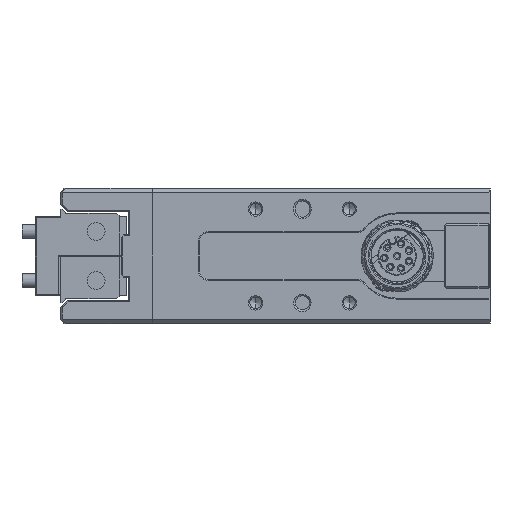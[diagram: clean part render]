
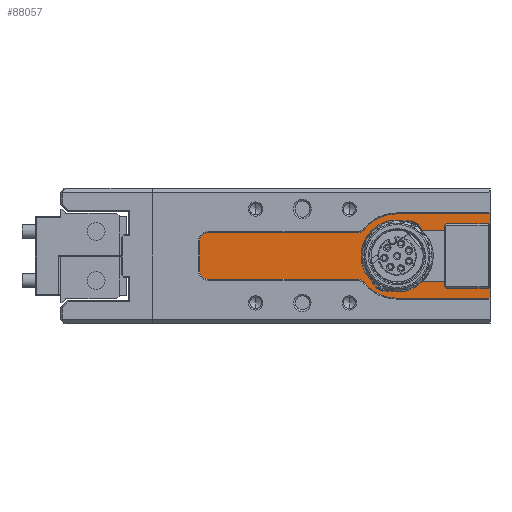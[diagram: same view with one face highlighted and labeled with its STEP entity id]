
A CAD part, left-side view. The second image highlights one B-rep face of the part: STEP entity #88057.
In plain terms, the highlighted planar face has unit normal (-1, 0, 0).
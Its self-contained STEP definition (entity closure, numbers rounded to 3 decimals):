
#2155 = EDGE_CURVE ( 'NONE', #17625, #79349, #61177, .T. ) ;
#2266 = ORIENTED_EDGE ( 'NONE', *, *, #50793, .T. ) ;
#2354 = ORIENTED_EDGE ( 'NONE', *, *, #10010, .T. ) ;
#2522 = CARTESIAN_POINT ( 'NONE',  ( -50.87, -21.523, 9. ) ) ;
#4268 = CARTESIAN_POINT ( 'NONE',  ( -50.87, 38.477, 3. ) ) ;
#4481 = DIRECTION ( 'NONE',  ( 0., 0., 1. ) ) ;
#6457 = DIRECTION ( 'NONE',  ( 0., 0., -1. ) ) ;
#7012 = VERTEX_POINT ( 'NONE', #45951 ) ;
#7230 = CARTESIAN_POINT ( 'NONE',  ( -50.87, -1.723, -9. ) ) ;
#7624 = VERTEX_POINT ( 'NONE', #2522 ) ;
#7814 = DIRECTION ( 'NONE',  ( 0., 1., 0. ) ) ;
#8308 = CARTESIAN_POINT ( 'NONE',  ( -50.87, -21.523, 5.4 ) ) ;
#8352 = CIRCLE ( 'NONE', #92830, 9. ) ;
#8661 = EDGE_CURVE ( 'NONE', #23329, #87450, #82084, .T. ) ;
#9563 = DIRECTION ( 'NONE',  ( 0., 0., 1. ) ) ;
#10010 = EDGE_CURVE ( 'NONE', #87450, #39166, #63283, .T. ) ;
#13167 = DIRECTION ( 'NONE',  ( 0., 0., -1. ) ) ;
#13680 = LINE ( 'NONE', #64772, #38796 ) ;
#16101 = ORIENTED_EDGE ( 'NONE', *, *, #30705, .T. ) ;
#17016 = DIRECTION ( 'NONE',  ( 0., 0., -1. ) ) ;
#17625 = VERTEX_POINT ( 'NONE', #59929 ) ;
#19085 = DIRECTION ( 'NONE',  ( 0., -1., 0. ) ) ;
#19540 = CARTESIAN_POINT ( 'NONE',  ( -50.87, 40.477, 3. ) ) ;
#19624 = DIRECTION ( 'NONE',  ( 0., 0., 1. ) ) ;
#20154 = AXIS2_PLACEMENT_3D ( 'NONE', #4268, #33031, #76995 ) ;
#20257 = PLANE ( 'NONE',  #52629 ) ;
#20746 = EDGE_CURVE ( 'NONE', #39856, #79349, #54997, .T. ) ;
#21563 = VECTOR ( 'NONE', #35539, 1000. ) ;
#22183 = LINE ( 'NONE', #64783, #33970 ) ;
#23329 = VERTEX_POINT ( 'NONE', #53255 ) ;
#25307 = EDGE_CURVE ( 'NONE', #39166, #61639, #67172, .T. ) ;
#26226 = VECTOR ( 'NONE', #19624, 1000. ) ;
#26705 = EDGE_CURVE ( 'NONE', #30707, #53278, #52452, .T. ) ;
#27347 = FACE_OUTER_BOUND ( 'NONE', #34750, .T. ) ;
#27549 = VERTEX_POINT ( 'NONE', #8308 ) ;
#28628 = VECTOR ( 'NONE', #4481, 1000. ) ;
#30705 = EDGE_CURVE ( 'NONE', #7624, #7012, #61180, .T. ) ;
#30707 = VERTEX_POINT ( 'NONE', #62576 ) ;
#30860 = DIRECTION ( 'NONE',  ( 0., 0., -1. ) ) ;
#33031 = DIRECTION ( 'NONE',  ( -1., 0., 0. ) ) ;
#33157 = AXIS2_PLACEMENT_3D ( 'NONE', #58495, #35468, #71433 ) ;
#33957 = ORIENTED_EDGE ( 'NONE', *, *, #84146, .F. ) ;
#33970 = VECTOR ( 'NONE', #70952, 1000. ) ;
#34750 = EDGE_LOOP ( 'NONE', ( #74551, #63765, #47635, #93163, #45050, #70514, #33957, #76183, #38985, #16101, #62457, #2266, #88746, #62815, #2354, #57529 ) ) ;
#35220 = DIRECTION ( 'NONE',  ( -1., 0., 0. ) ) ;
#35468 = DIRECTION ( 'NONE',  ( -1., 0., 0. ) ) ;
#35539 = DIRECTION ( 'NONE',  ( 0., 1., 0. ) ) ;
#38796 = VECTOR ( 'NONE', #58138, 1000. ) ;
#38985 = ORIENTED_EDGE ( 'NONE', *, *, #77699, .T. ) ;
#39166 = VERTEX_POINT ( 'NONE', #58476 ) ;
#39856 = VERTEX_POINT ( 'NONE', #48617 ) ;
#41313 = EDGE_CURVE ( 'NONE', #61639, #30707, #22183, .T. ) ;
#41325 = CIRCLE ( 'NONE', #50443, 5.4 ) ;
#42276 = EDGE_CURVE ( 'NONE', #7012, #91303, #8352, .T. ) ;
#42668 = CARTESIAN_POINT ( 'NONE',  ( -50.87, -1.723, 5.4 ) ) ;
#43036 = AXIS2_PLACEMENT_3D ( 'NONE', #53601, #45106, #30860 ) ;
#43390 = CARTESIAN_POINT ( 'NONE',  ( -50.87, -21.523, 0. ) ) ;
#45050 = ORIENTED_EDGE ( 'NONE', *, *, #2155, .T. ) ;
#45106 = DIRECTION ( 'NONE',  ( -1., 0., 0. ) ) ;
#45951 = CARTESIAN_POINT ( 'NONE',  ( -50.87, -1.723, 9. ) ) ;
#46885 = CARTESIAN_POINT ( 'NONE',  ( -50.87, 5.219, -5.727 ) ) ;
#46936 = CARTESIAN_POINT ( 'NONE',  ( -50.87, -1.723, -5.4 ) ) ;
#46974 = DIRECTION ( 'NONE',  ( 0., 1., 0. ) ) ;
#47377 = CARTESIAN_POINT ( 'NONE',  ( -50.87, 6.762, 5. ) ) ;
#47635 = ORIENTED_EDGE ( 'NONE', *, *, #68781, .T. ) ;
#48097 = CARTESIAN_POINT ( 'NONE',  ( -50.87, 38.477, -5. ) ) ;
#48227 = CIRCLE ( 'NONE', #33157, 9. ) ;
#48405 = CARTESIAN_POINT ( 'NONE',  ( -50.87, -1.723, 9. ) ) ;
#48617 = CARTESIAN_POINT ( 'NONE',  ( -50.87, -1.723, -5.4 ) ) ;
#48955 = CARTESIAN_POINT ( 'NONE',  ( -50.87, -1.723, 5.4 ) ) ;
#50443 = AXIS2_PLACEMENT_3D ( 'NONE', #53980, #74798, #9563 ) ;
#50793 = EDGE_CURVE ( 'NONE', #91303, #61231, #55423, .T. ) ;
#50871 = AXIS2_PLACEMENT_3D ( 'NONE', #85365, #77779, #6457 ) ;
#52452 = CIRCLE ( 'NONE', #93177, 2. ) ;
#52629 = AXIS2_PLACEMENT_3D ( 'NONE', #43390, #70847, #93443 ) ;
#52930 = CARTESIAN_POINT ( 'NONE',  ( -50.87, 6.762, -7. ) ) ;
#53255 = CARTESIAN_POINT ( 'NONE',  ( -50.87, 38.477, 5. ) ) ;
#53278 = VERTEX_POINT ( 'NONE', #46885 ) ;
#53601 = CARTESIAN_POINT ( 'NONE',  ( -50.87, 38.477, -3. ) ) ;
#53980 = CARTESIAN_POINT ( 'NONE',  ( -50.87, -1.723, 0. ) ) ;
#54132 = CARTESIAN_POINT ( 'NONE',  ( -50.87, -21.523, 9. ) ) ;
#54997 = LINE ( 'NONE', #46936, #84084 ) ;
#55423 = CIRCLE ( 'NONE', #50871, 2. ) ;
#55458 = VECTOR ( 'NONE', #46974, 1000. ) ;
#57143 = CARTESIAN_POINT ( 'NONE',  ( -50.87, 40.477, 5. ) ) ;
#57437 = DIRECTION ( 'NONE',  ( 0., 0., 1. ) ) ;
#57529 = ORIENTED_EDGE ( 'NONE', *, *, #25307, .T. ) ;
#58138 = DIRECTION ( 'NONE',  ( 0., -1., 0. ) ) ;
#58476 = CARTESIAN_POINT ( 'NONE',  ( -50.87, 40.477, -3. ) ) ;
#58495 = CARTESIAN_POINT ( 'NONE',  ( -50.87, -1.723, 0. ) ) ;
#59929 = CARTESIAN_POINT ( 'NONE',  ( -50.87, -21.523, -9. ) ) ;
#61177 = LINE ( 'NONE', #75357, #28628 ) ;
#61180 = LINE ( 'NONE', #48405, #55458 ) ;
#61210 = LINE ( 'NONE', #54132, #26226 ) ;
#61231 = VERTEX_POINT ( 'NONE', #47377 ) ;
#61639 = VERTEX_POINT ( 'NONE', #48097 ) ;
#62457 = ORIENTED_EDGE ( 'NONE', *, *, #42276, .T. ) ;
#62576 = CARTESIAN_POINT ( 'NONE',  ( -50.87, 6.762, -5. ) ) ;
#62815 = ORIENTED_EDGE ( 'NONE', *, *, #8661, .T. ) ;
#62979 = EDGE_CURVE ( 'NONE', #27549, #74314, #72117, .T. ) ;
#63283 = LINE ( 'NONE', #57143, #74634 ) ;
#63454 = CARTESIAN_POINT ( 'NONE',  ( -50.87, 40.477, 5. ) ) ;
#63765 = ORIENTED_EDGE ( 'NONE', *, *, #26705, .T. ) ;
#64772 = CARTESIAN_POINT ( 'NONE',  ( -50.87, -1.723, -9. ) ) ;
#64783 = CARTESIAN_POINT ( 'NONE',  ( -50.87, 40.477, -5. ) ) ;
#66068 = CARTESIAN_POINT ( 'NONE',  ( -50.87, 5.219, 5.727 ) ) ;
#67098 = CARTESIAN_POINT ( 'NONE',  ( -50.87, -21.523, -5.4 ) ) ;
#67172 = CIRCLE ( 'NONE', #43036, 2. ) ;
#68781 = EDGE_CURVE ( 'NONE', #53278, #76141, #48227, .T. ) ;
#70514 = ORIENTED_EDGE ( 'NONE', *, *, #20746, .F. ) ;
#70847 = DIRECTION ( 'NONE',  ( 1., 0., 0. ) ) ;
#70952 = DIRECTION ( 'NONE',  ( 0., -1., 0. ) ) ;
#71199 = CARTESIAN_POINT ( 'NONE',  ( -50.87, -1.723, 0. ) ) ;
#71433 = DIRECTION ( 'NONE',  ( 0., 0., 1. ) ) ;
#72016 = VECTOR ( 'NONE', #7814, 1000. ) ;
#72117 = LINE ( 'NONE', #48955, #72016 ) ;
#74314 = VERTEX_POINT ( 'NONE', #42668 ) ;
#74551 = ORIENTED_EDGE ( 'NONE', *, *, #41313, .T. ) ;
#74634 = VECTOR ( 'NONE', #13167, 1000. ) ;
#74798 = DIRECTION ( 'NONE',  ( -1., 0., 0. ) ) ;
#75357 = CARTESIAN_POINT ( 'NONE',  ( -50.87, -21.523, 9. ) ) ;
#75988 = EDGE_CURVE ( 'NONE', #61231, #23329, #84752, .T. ) ;
#76141 = VERTEX_POINT ( 'NONE', #7230 ) ;
#76183 = ORIENTED_EDGE ( 'NONE', *, *, #62979, .F. ) ;
#76995 = DIRECTION ( 'NONE',  ( 0., 0., -1. ) ) ;
#77699 = EDGE_CURVE ( 'NONE', #27549, #7624, #61210, .T. ) ;
#77779 = DIRECTION ( 'NONE',  ( 1., 0., 0. ) ) ;
#79349 = VERTEX_POINT ( 'NONE', #67098 ) ;
#81788 = DIRECTION ( 'NONE',  ( 1., 0., 0. ) ) ;
#82084 = CIRCLE ( 'NONE', #20154, 2. ) ;
#84084 = VECTOR ( 'NONE', #19085, 1000. ) ;
#84146 = EDGE_CURVE ( 'NONE', #74314, #39856, #41325, .T. ) ;
#84752 = LINE ( 'NONE', #63454, #21563 ) ;
#85365 = CARTESIAN_POINT ( 'NONE',  ( -50.87, 6.762, 7. ) ) ;
#86998 = EDGE_CURVE ( 'NONE', #76141, #17625, #13680, .T. ) ;
#87450 = VERTEX_POINT ( 'NONE', #19540 ) ;
#88057 = ADVANCED_FACE ( 'NONE', ( #27347 ), #20257, .F. ) ;
#88746 = ORIENTED_EDGE ( 'NONE', *, *, #75988, .T. ) ;
#91303 = VERTEX_POINT ( 'NONE', #66068 ) ;
#92830 = AXIS2_PLACEMENT_3D ( 'NONE', #71199, #35220, #57437 ) ;
#93163 = ORIENTED_EDGE ( 'NONE', *, *, #86998, .T. ) ;
#93177 = AXIS2_PLACEMENT_3D ( 'NONE', #52930, #81788, #17016 ) ;
#93443 = DIRECTION ( 'NONE',  ( 0., 0., -1. ) ) ;
